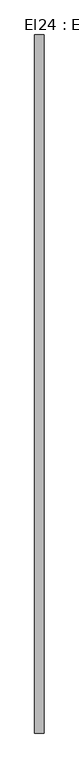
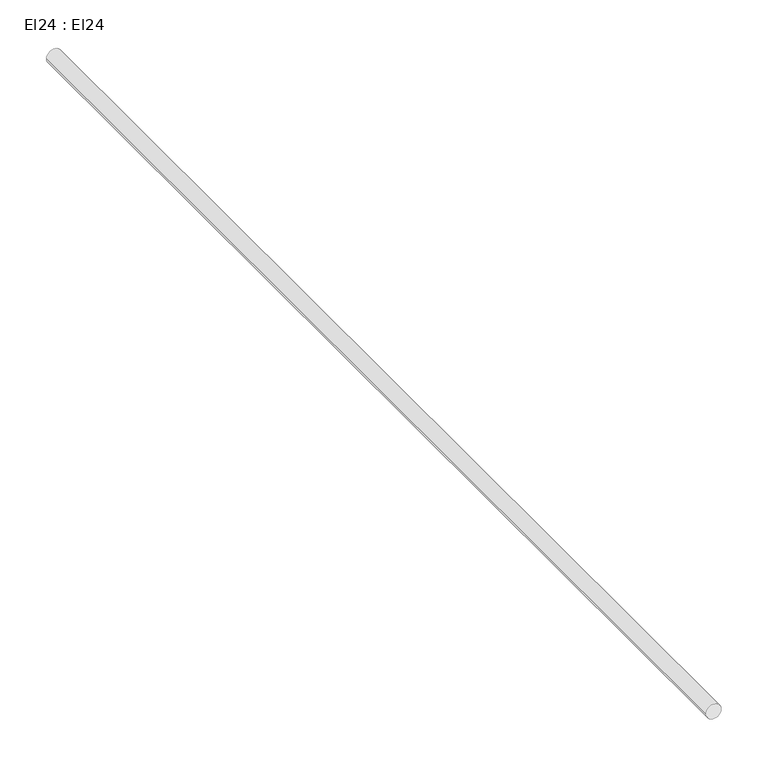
"""IFC4 building model written with IfcOpenShell, lengths in millimetres: cable carrier segment geometry, El24 : El24."""

from ifc_helpers import new_model, si_unit, point, frame, frame_2d, origin, place, context, project, spatial, circle_curve, trimmed, segment, composite_curve, outline, extrude, source, transform, mapped, element, save


def el24_el24_3f7efb73(model_context):
    return source(origin(), model_context, "Body", "SweptSolid", [
        extrude(outline(composite_curve([segment(trimmed(circle_curve(frame_2d((2950.0, 2600.0)), 9.5), [point((2950.0, 2590.5))], [point((2950.0, 2609.5))], False, "CARTESIAN"), True, "CONTINUOUS"), segment(trimmed(circle_curve(frame_2d((2950.0, 2600.0)), 9.5), [point((2950.0, 2609.5))], [point((2950.0, 2590.5))], False, "CARTESIAN"), True, "CONTINUOUS")], self_intersect=False)), frame((0.0, 16179.667, 0.0), z_axis=(0.0, 1.0, 0.0), x_axis=(0.0, 0.0, 1.0)), (0.0, 0.0, 1.0), 1416.67),
    ])


if __name__ == "__main__":
    model = new_model("IFC4")
    model_context = context("Model", 3, world=origin())
    ifc_project = project(units=[si_unit("LENGTHUNIT", "METRE", prefix="MILLI")], contexts=[model_context])
    site = spatial("IfcSite", under=ifc_project)
    building = spatial("IfcBuilding", under=site)
    placement = place(None, origin())
    el24_el24_shape = el24_el24_3f7efb73(model_context)
    element("IfcCableCarrierSegment", 1, ObjectType="El24 : El24", at=placement, inside=building, context=model_context, shape_type="MappedRepresentation", body=[
        mapped(el24_el24_shape, transform((0.0, 0.0, 0.0), x_axis=(1.0, 0.0, 0.0), y_axis=(0.0, 1.0, 0.0), z_axis=(0.0, 0.0, 1.0))),
    ])
    save(model, "model.ifc")
